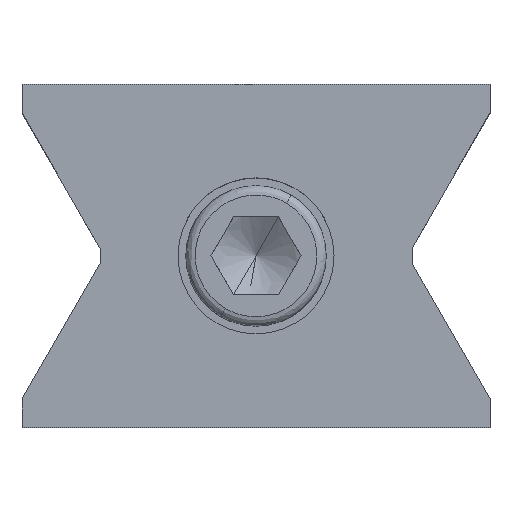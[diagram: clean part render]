
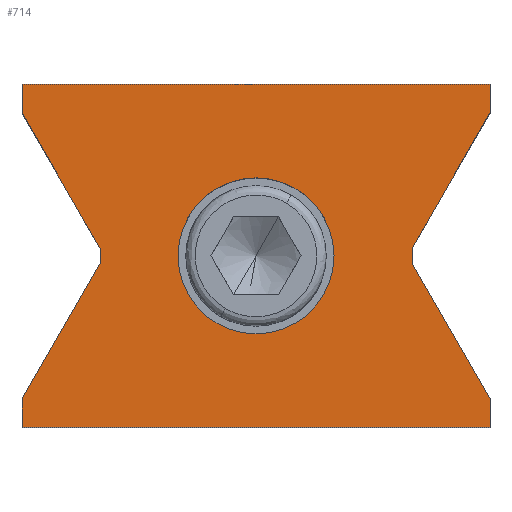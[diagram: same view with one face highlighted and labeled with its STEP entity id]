
A CAD part, top view. The second image highlights one B-rep face of the part: STEP entity #714.
In plain terms, the highlighted planar face has unit normal (0, 0, 1).
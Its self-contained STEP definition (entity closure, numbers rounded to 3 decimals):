
#2 = DIRECTION ( 'NONE',  ( 0., -1., 0. ) ) ;
#27 = DIRECTION ( 'NONE',  ( -1., 0., 0. ) ) ;
#42 = ORIENTED_EDGE ( 'NONE', *, *, #897, .T. ) ;
#47 = ORIENTED_EDGE ( 'NONE', *, *, #437, .T. ) ;
#78 = CARTESIAN_POINT ( 'NONE',  ( -20., -1., 21.4 ) ) ;
#81 = LINE ( 'NONE', #1162, #485 ) ;
#105 = ORIENTED_EDGE ( 'NONE', *, *, #860, .T. ) ;
#126 = ORIENTED_EDGE ( 'NONE', *, *, #998, .T. ) ;
#135 = VECTOR ( 'NONE', #27, 1000. ) ;
#166 = CARTESIAN_POINT ( 'NONE',  ( 30., 18.321, 21.4 ) ) ;
#172 = CARTESIAN_POINT ( 'NONE',  ( -30., -18.321, 21.4 ) ) ;
#184 = FACE_BOUND ( 'NONE', #966, .T. ) ;
#193 = VECTOR ( 'NONE', #1614, 1000. ) ;
#211 = CARTESIAN_POINT ( 'NONE',  ( -30., 22., 21.4 ) ) ;
#215 = VECTOR ( 'NONE', #568, 1000. ) ;
#235 = CARTESIAN_POINT ( 'NONE',  ( 30., -22., 21.4 ) ) ;
#246 = VECTOR ( 'NONE', #1106, 1000. ) ;
#266 = DIRECTION ( 'NONE',  ( 0., 0., -1. ) ) ;
#275 = CARTESIAN_POINT ( 'NONE',  ( 30., 22., 21.4 ) ) ;
#295 = CARTESIAN_POINT ( 'NONE',  ( 30., 22., 21.4 ) ) ;
#301 = CARTESIAN_POINT ( 'NONE',  ( 20., 1., 21.4 ) ) ;
#306 = VERTEX_POINT ( 'NONE', #275 ) ;
#310 = DIRECTION ( 'NONE',  ( -0.5, -0.866, 0. ) ) ;
#327 = VECTOR ( 'NONE', #1218, 1000. ) ;
#363 = CARTESIAN_POINT ( 'NONE',  ( -30., 22., 21.4 ) ) ;
#383 = DIRECTION ( 'NONE',  ( 0., -1., 0. ) ) ;
#426 = VERTEX_POINT ( 'NONE', #1048 ) ;
#431 = CARTESIAN_POINT ( 'NONE',  ( -20., 22., 21.4 ) ) ;
#437 = EDGE_CURVE ( 'NONE', #603, #1516, #1482, .T. ) ;
#456 = CARTESIAN_POINT ( 'NONE',  ( -30., 18.321, 21.4 ) ) ;
#462 = DIRECTION ( 'NONE',  ( 0., -1., 0. ) ) ;
#485 = VECTOR ( 'NONE', #1018, 1000. ) ;
#516 = ORIENTED_EDGE ( 'NONE', *, *, #522, .T. ) ;
#517 = LINE ( 'NONE', #748, #1264 ) ;
#522 = EDGE_CURVE ( 'NONE', #1082, #908, #81, .T. ) ;
#542 = LINE ( 'NONE', #796, #135 ) ;
#568 = DIRECTION ( 'NONE',  ( 0., -1., 0. ) ) ;
#602 = ORIENTED_EDGE ( 'NONE', *, *, #1537, .T. ) ;
#603 = VERTEX_POINT ( 'NONE', #1217 ) ;
#624 = DIRECTION ( 'NONE',  ( 0., 1., 0. ) ) ;
#643 = CARTESIAN_POINT ( 'NONE',  ( 30., 22., 21.4 ) ) ;
#656 = AXIS2_PLACEMENT_3D ( 'NONE', #431, #946, #692 ) ;
#660 = CARTESIAN_POINT ( 'NONE',  ( 0., -10., 21.4 ) ) ;
#661 = VECTOR ( 'NONE', #1592, 1000. ) ;
#690 = VERTEX_POINT ( 'NONE', #166 ) ;
#692 = DIRECTION ( 'NONE',  ( 0., -1., 0. ) ) ;
#714 = ADVANCED_FACE ( 'NONE', ( #184, #1609 ), #1085, .T. ) ;
#718 = EDGE_LOOP ( 'NONE', ( #105, #42, #846, #1295, #1702, #1387, #1299, #1729, #1098, #602, #516, #126 ) ) ;
#745 = CARTESIAN_POINT ( 'NONE',  ( -20., -1., 21.4 ) ) ;
#748 = CARTESIAN_POINT ( 'NONE',  ( 30., -18.321, 21.4 ) ) ;
#759 = CARTESIAN_POINT ( 'NONE',  ( -30., 22., 21.4 ) ) ;
#786 = VERTEX_POINT ( 'NONE', #1682 ) ;
#787 = EDGE_CURVE ( 'NONE', #1516, #603, #1024, .T. ) ;
#796 = CARTESIAN_POINT ( 'NONE',  ( -20., 22., 21.4 ) ) ;
#811 = VECTOR ( 'NONE', #624, 1000. ) ;
#817 = VECTOR ( 'NONE', #1233, 1000. ) ;
#844 = DIRECTION ( 'NONE',  ( 0., 0., -1. ) ) ;
#846 = ORIENTED_EDGE ( 'NONE', *, *, #1432, .T. ) ;
#847 = LINE ( 'NONE', #78, #1478 ) ;
#860 = EDGE_CURVE ( 'NONE', #901, #1249, #517, .T. ) ;
#871 = CARTESIAN_POINT ( 'NONE',  ( 0., 0., 21.4 ) ) ;
#897 = EDGE_CURVE ( 'NONE', #1249, #1443, #1453, .T. ) ;
#901 = VERTEX_POINT ( 'NONE', #1170 ) ;
#908 = VERTEX_POINT ( 'NONE', #235 ) ;
#915 = CARTESIAN_POINT ( 'NONE',  ( 20., 1., 21.4 ) ) ;
#946 = DIRECTION ( 'NONE',  ( 0., 0., 1. ) ) ;
#966 = EDGE_LOOP ( 'NONE', ( #1104, #47 ) ) ;
#978 = LINE ( 'NONE', #211, #215 ) ;
#998 = EDGE_CURVE ( 'NONE', #908, #901, #1476, .T. ) ;
#1016 = LINE ( 'NONE', #643, #811 ) ;
#1018 = DIRECTION ( 'NONE',  ( 1., 0., 0. ) ) ;
#1024 = CIRCLE ( 'NONE', #1049, 10. ) ;
#1048 = CARTESIAN_POINT ( 'NONE',  ( -20., 1., 21.4 ) ) ;
#1049 = AXIS2_PLACEMENT_3D ( 'NONE', #1672, #844, #462 ) ;
#1056 = VERTEX_POINT ( 'NONE', #172 ) ;
#1082 = VERTEX_POINT ( 'NONE', #1352 ) ;
#1085 = PLANE ( 'NONE',  #656 ) ;
#1098 = ORIENTED_EDGE ( 'NONE', *, *, #1611, .T. ) ;
#1104 = ORIENTED_EDGE ( 'NONE', *, *, #787, .T. ) ;
#1106 = DIRECTION ( 'NONE',  ( 0.5, -0.866, 0. ) ) ;
#1162 = CARTESIAN_POINT ( 'NONE',  ( -20., -22., 21.4 ) ) ;
#1170 = CARTESIAN_POINT ( 'NONE',  ( 30., -18.321, 21.4 ) ) ;
#1201 = VECTOR ( 'NONE', #383, 1000. ) ;
#1217 = CARTESIAN_POINT ( 'NONE',  ( 0., 10., 21.4 ) ) ;
#1218 = DIRECTION ( 'NONE',  ( 0., -1., 0. ) ) ;
#1221 = EDGE_CURVE ( 'NONE', #690, #306, #1016, .T. ) ;
#1233 = DIRECTION ( 'NONE',  ( 0., 1., 0. ) ) ;
#1240 = AXIS2_PLACEMENT_3D ( 'NONE', #871, #266, #2 ) ;
#1242 = VERTEX_POINT ( 'NONE', #745 ) ;
#1249 = VERTEX_POINT ( 'NONE', #1555 ) ;
#1264 = VECTOR ( 'NONE', #1328, 1000. ) ;
#1282 = EDGE_CURVE ( 'NONE', #1324, #786, #1298, .T. ) ;
#1295 = ORIENTED_EDGE ( 'NONE', *, *, #1221, .T. ) ;
#1298 = LINE ( 'NONE', #759, #1201 ) ;
#1299 = ORIENTED_EDGE ( 'NONE', *, *, #1528, .T. ) ;
#1324 = VERTEX_POINT ( 'NONE', #363 ) ;
#1328 = DIRECTION ( 'NONE',  ( -0.5, 0.866, 0. ) ) ;
#1352 = CARTESIAN_POINT ( 'NONE',  ( -30., -22., 21.4 ) ) ;
#1387 = ORIENTED_EDGE ( 'NONE', *, *, #1282, .T. ) ;
#1432 = EDGE_CURVE ( 'NONE', #1443, #690, #1499, .T. ) ;
#1434 = EDGE_CURVE ( 'NONE', #426, #1242, #1474, .T. ) ;
#1443 = VERTEX_POINT ( 'NONE', #301 ) ;
#1449 = EDGE_CURVE ( 'NONE', #306, #1324, #542, .T. ) ;
#1453 = LINE ( 'NONE', #1468, #661 ) ;
#1468 = CARTESIAN_POINT ( 'NONE',  ( 20., 22., 21.4 ) ) ;
#1474 = LINE ( 'NONE', #1640, #327 ) ;
#1476 = LINE ( 'NONE', #295, #817 ) ;
#1478 = VECTOR ( 'NONE', #310, 1000. ) ;
#1482 = CIRCLE ( 'NONE', #1240, 10. ) ;
#1499 = LINE ( 'NONE', #915, #193 ) ;
#1516 = VERTEX_POINT ( 'NONE', #660 ) ;
#1528 = EDGE_CURVE ( 'NONE', #786, #426, #1645, .T. ) ;
#1537 = EDGE_CURVE ( 'NONE', #1056, #1082, #978, .T. ) ;
#1555 = CARTESIAN_POINT ( 'NONE',  ( 20., -1., 21.4 ) ) ;
#1592 = DIRECTION ( 'NONE',  ( 0., 1., 0. ) ) ;
#1609 = FACE_OUTER_BOUND ( 'NONE', #718, .T. ) ;
#1611 = EDGE_CURVE ( 'NONE', #1242, #1056, #847, .T. ) ;
#1614 = DIRECTION ( 'NONE',  ( 0.5, 0.866, 0. ) ) ;
#1640 = CARTESIAN_POINT ( 'NONE',  ( -20., 22., 21.4 ) ) ;
#1645 = LINE ( 'NONE', #456, #246 ) ;
#1672 = CARTESIAN_POINT ( 'NONE',  ( 0., 0., 21.4 ) ) ;
#1682 = CARTESIAN_POINT ( 'NONE',  ( -30., 18.321, 21.4 ) ) ;
#1702 = ORIENTED_EDGE ( 'NONE', *, *, #1449, .T. ) ;
#1729 = ORIENTED_EDGE ( 'NONE', *, *, #1434, .T. ) ;
